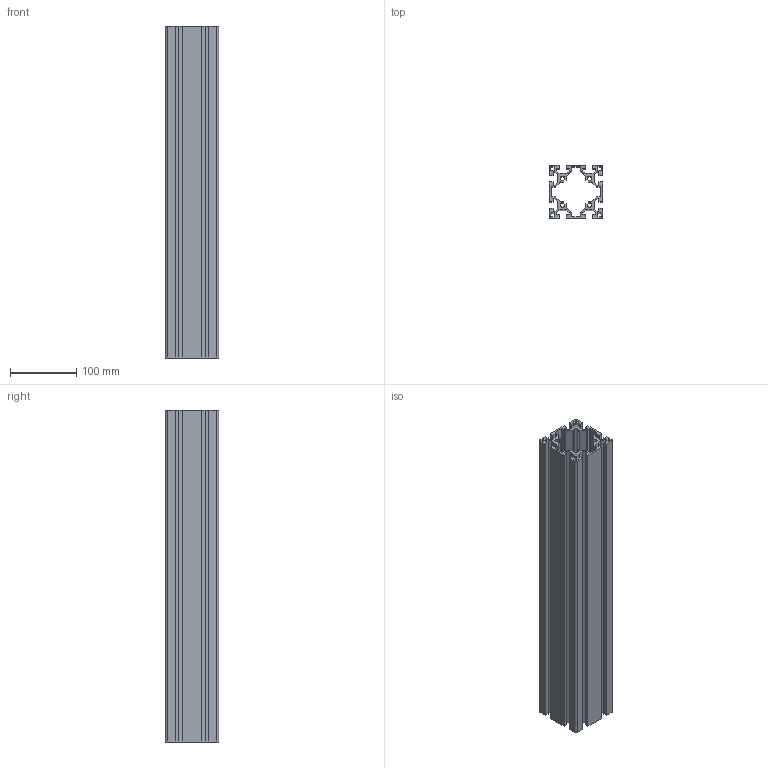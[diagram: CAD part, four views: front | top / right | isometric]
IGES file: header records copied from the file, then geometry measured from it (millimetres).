
Start section: SolidWorks IGES file using analytic representation for surfaces
Global section: file name: C:\Documents and Settings\Administrator\デスクトップ\指定保存後3回目\SolidWorks\SF\SF40・45\Frame\SFF-804.IGS,41HSolidWorks; native system: 2006 by SolidWorks Corporation; preprocessor: SolidWorks 2006 by SolidWorks Corporation; author: Administrator; date: 061213.113256; units: millimetre
Bounding box: 80 x 80 x 500 mm (x, y, z)
Surface area: 528882.9 mm2 (no closed solid volume)
Topology: 0 solids, 0 shells, 230 faces, 2592 edges, 3276 vertices
Faces by surface type: bspline 154, revolution 76
